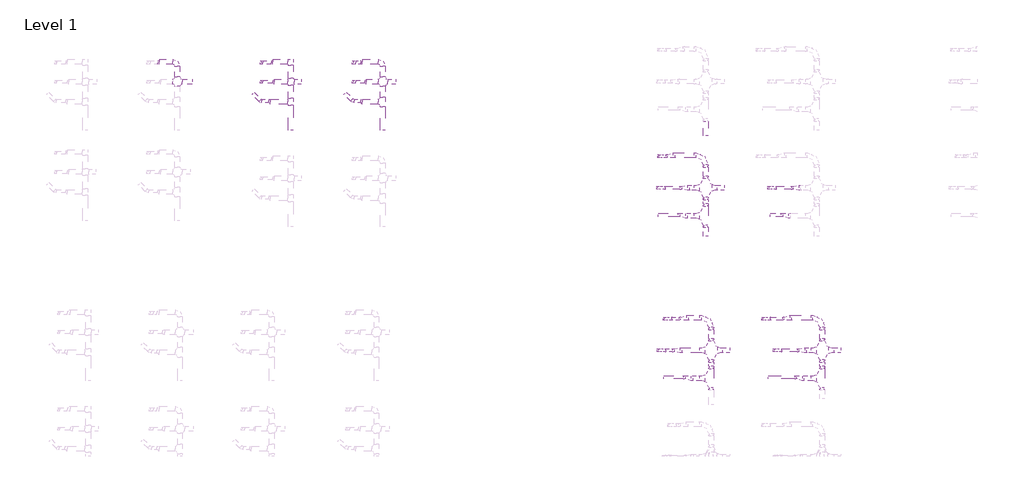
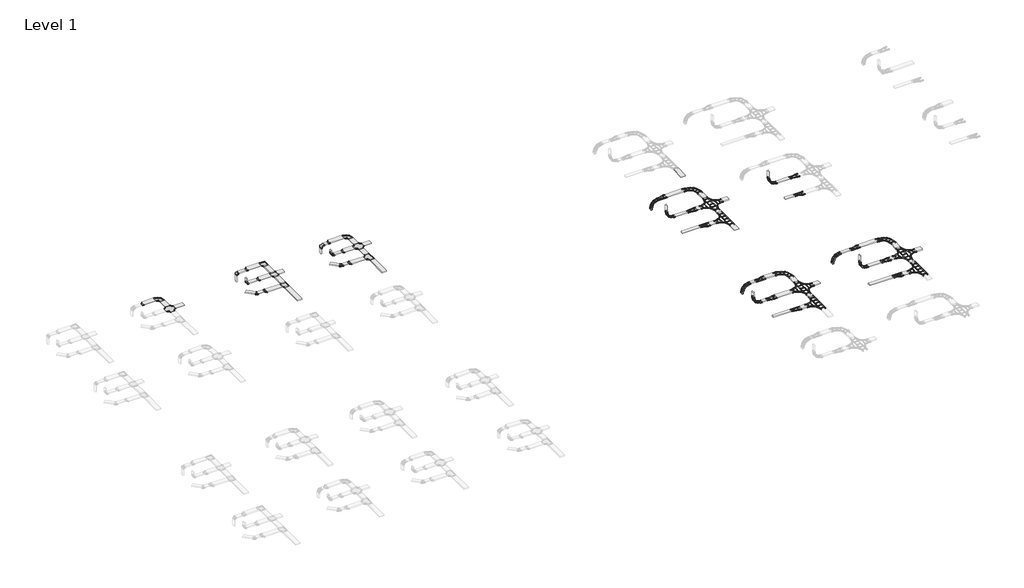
# One storey, part 4 of 9: 66 cable carrier segments, 48 cable carrier fittings.
"""IFC4 building model written with IfcOpenShell, lengths in millimetres."""

from ifc_helpers import new_model, si_unit, frame, origin, place, context, project, spatial, polyline, outline, extrude, transform, mapped, element, save
from components import cable_carrier_fitting_1_mm_2e661681, cable_carrier_fitting_1_mm_805de479, cable_carrier_fitting_1_mm_529289f4, cable_carrier_fitting_1_mm_c1197fce, cable_carrier_fitting_1_mm_2da36d92, cable_carrier_fitting_1_mm_367de262, cable_carrier_fitting_1_mm_a7febe8f, cable_carrier_fitting_1_mm_fc54f34e, cable_carrier_fitting_1_mm_42b71fda, cable_carrier_fitting_1_mm_6bbfc198, cable_carrier_fitting_1_mm_6862339d, cable_carrier_fitting_1_mm_9a7406c8, cable_carrier_fitting_1_mm_d3f2b815, cable_carrier_fitting_1_mm_5924018d, cable_carrier_fitting_1_mm_cfe8fd75, cable_carrier_fitting_1_mm_02684e42, cable_carrier_fitting_1_5_mm_cc8ef015, cable_carrier_fitting_1_5_mm_7721eeaa, cable_carrier_fitting_1_5_mm_3523910d, cable_carrier_fitting_1_5_mm_74426db5, cable_carrier_fitting_1_5_mm_ccf48cd3, cable_carrier_fitting_1_5_mm_c053843e, cable_carrier_fitting_1_5_mm_2af02ecb, cable_carrier_fitting_1_5_mm_0168b917, cable_carrier_fitting_1_5_mm_8b0a73e9, cable_carrier_fitting_1_5_mm_19f47176, cable_carrier_fitting_1_5_mm_3fb46f2a, cable_carrier_fitting_1_5_mm_6c32c4d6, cable_carrier_fitting_1_5_mm_98a35593, cable_carrier_fitting_1_5_mm_6b6fba04, cable_carrier_fitting_1_5_mm_c50eb6b4, cable_carrier_fitting_1_5_mm_1f838bc7, cable_carrier_fitting_1_5_mm_861352f9, cable_carrier_fitting_1_5_mm_f55de235

model = new_model("IFC4")

# Units and contexts
model_context = context("Model", 3, world=origin())
ifc_project = project(units=[si_unit("LENGTHUNIT", "METRE", prefix="MILLI")], contexts=[model_context])

# Site, building, storey
site = spatial("IfcSite", under=ifc_project)
building = spatial("IfcBuilding", under=site)
storey = spatial("IfcBuildingStorey", under=building, Name="Level 1", Elevation=0.0)

# Cable carrier fittings
placement = place(None, origin())
cable_carrier_fitting_1_mm_shape = cable_carrier_fitting_1_mm_2e661681(model_context)
element("IfcCableCarrierFitting", 1, ObjectType="BAKS_Redukcja : 1 mm", at=placement, inside=storey, context=model_context, shape_type="MappedRepresentation", body=[
    mapped(cable_carrier_fitting_1_mm_shape, transform((-14712.8504125, 19790.4928401, 2750.0), x_axis=(-1.0, 0.0, 0.0), y_axis=(0.0, -1.0, 0.0), z_axis=(0.0, 0.0, 1.0))),
])
cable_carrier_fitting_1_mm_2_shape = cable_carrier_fitting_1_mm_805de479(model_context)
element("IfcCableCarrierFitting", 2, ObjectType="BAKS_Redukcja : 1 mm", at=placement, inside=storey, context=model_context, shape_type="MappedRepresentation", body=[
    mapped(cable_carrier_fitting_1_mm_2_shape, transform((-7772.5541593, 18572.5015825, 2750.0), x_axis=(1.0, 0.0, 0.0), y_axis=(0.0, 1.0, 0.0), z_axis=(0.0, 0.0, 1.0))),
])
element("IfcCableCarrierFitting", 3, ObjectType="BAKS_Redukcja : 1 mm", at=placement, inside=storey, context=model_context, shape_type="MappedRepresentation", body=[
    mapped(cable_carrier_fitting_1_mm_2_shape, transform((-2152.5541593, 18572.5015825, 2750.0), x_axis=(1.0, 0.0, 0.0), y_axis=(0.0, 1.0, 0.0), z_axis=(0.0, 0.0, 1.0))),
])
cable_carrier_fitting_1_mm_3_shape = cable_carrier_fitting_1_mm_529289f4(model_context)
element("IfcCableCarrierFitting", 4, ObjectType="BAKS_Redukcja : 1 mm", at=placement, inside=storey, context=model_context, shape_type="MappedRepresentation", body=[
    mapped(cable_carrier_fitting_1_mm_3_shape, transform((-7772.5541593, 19790.4928401, 2750.0), x_axis=(-1.0, 0.0, 0.0), y_axis=(0.0, -1.0, 0.0), z_axis=(0.0, 0.0, 1.0))),
])
element("IfcCableCarrierFitting", 5, ObjectType="BAKS_Redukcja : 1 mm", at=placement, inside=storey, context=model_context, shape_type="MappedRepresentation", body=[
    mapped(cable_carrier_fitting_1_mm_3_shape, transform((-2312.5541593, 19790.4928401, 2750.0), x_axis=(-1.0, 0.0, 0.0), y_axis=(0.0, -1.0, 0.0), z_axis=(0.0, 0.0, 1.0))),
])
cable_carrier_fitting_1_mm_4_shape = cable_carrier_fitting_1_mm_c1197fce(model_context)
element("IfcCableCarrierFitting", 6, ObjectType="BAKS_Redukcja : 1 mm", at=placement, inside=storey, context=model_context, shape_type="MappedRepresentation", body=[
    mapped(cable_carrier_fitting_1_mm_4_shape, transform((-7932.5541593, 17341.8691699, 2750.0), x_axis=(-1.0, 0.0, 0.0), y_axis=(0.0, -1.0, 0.0), z_axis=(0.0, 0.0, 1.0))),
])
element("IfcCableCarrierFitting", 7, ObjectType="BAKS_Redukcja : 1 mm", at=placement, inside=storey, context=model_context, shape_type="MappedRepresentation", body=[
    mapped(cable_carrier_fitting_1_mm_4_shape, transform((-2312.5541593, 17341.8691699, 2750.0), x_axis=(-1.0, 0.0, 0.0), y_axis=(0.0, -1.0, 0.0), z_axis=(0.0, 0.0, 1.0))),
])
cable_carrier_fitting_1_mm_5_shape = cable_carrier_fitting_1_mm_2da36d92(model_context)
element("IfcCableCarrierFitting", 8, ObjectType="BAKS_Czwórnik_koryta (R140) : 1 mm", at=placement, inside=storey, context=model_context, shape_type="MappedRepresentation", body=[
    mapped(cable_carrier_fitting_1_mm_5_shape, transform((-13612.8504125, 18572.5015825, 2750.0), x_axis=(0.0, 1.0, 0.0), y_axis=(-1.0, 0.0, 0.0), z_axis=(0.0, 0.0, 1.0))),
])
cable_carrier_fitting_1_mm_6_shape = cable_carrier_fitting_1_mm_367de262(model_context)
element("IfcCableCarrierFitting", 9, ObjectType="BAKS_Czwórnik_koryta (R140) : 1 mm", at=placement, inside=storey, context=model_context, shape_type="MappedRepresentation", body=[
    mapped(cable_carrier_fitting_1_mm_6_shape, transform((-1052.5541593, 18572.5015825, 2750.0), x_axis=(0.0, 1.0, 0.0), y_axis=(-1.0, 0.0, 0.0), z_axis=(0.0, 0.0, 1.0))),
])
cable_carrier_fitting_1_mm_7_shape = cable_carrier_fitting_1_mm_a7febe8f(model_context)
element("IfcCableCarrierFitting", 10, ObjectType="BAKS_Trójnik_koryta (R140) : 1 mm", at=placement, inside=storey, context=model_context, shape_type="MappedRepresentation", body=[
    mapped(cable_carrier_fitting_1_mm_7_shape, transform((-1052.5541593, 17341.8691699, 2750.0), x_axis=(0.0, -1.0, 0.0), y_axis=(1.0, 0.0, 0.0), z_axis=(0.0, 0.0, 1.0))),
])
cable_carrier_fitting_1_mm_8_shape = cable_carrier_fitting_1_mm_fc54f34e(model_context)
element("IfcCableCarrierFitting", 11, ObjectType="BAKS_Kolano_koryta : 1 mm", at=placement, inside=storey, context=model_context, shape_type="MappedRepresentation", body=[
    mapped(cable_carrier_fitting_1_mm_8_shape, transform((-8512.5541593, 17391.8691699, 2750.0), x_axis=(0.7071067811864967, -0.7071067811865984, 0.0), y_axis=(0.7071067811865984, 0.7071067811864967, 0.0), z_axis=(0.0, 0.0, 1.0))),
])
cable_carrier_fitting_1_mm_9_shape = cable_carrier_fitting_1_mm_42b71fda(model_context)
element("IfcCableCarrierFitting", 12, ObjectType="BAKS_Kolano_koryta : 1 mm", at=placement, inside=storey, context=model_context, shape_type="MappedRepresentation", body=[
    mapped(cable_carrier_fitting_1_mm_9_shape, transform((-6672.5541593, 19790.4928401, 2750.0), x_axis=(0.0, 1.0, 0.0), y_axis=(-1.0, 0.0, 0.0), z_axis=(0.0, 0.0, 1.0))),
])
cable_carrier_fitting_1_mm_10_shape = cable_carrier_fitting_1_mm_6bbfc198(model_context)
element("IfcCableCarrierFitting", 13, ObjectType="BAKS_Kolano_koryta (R140) : 1 mm", at=placement, inside=storey, context=model_context, shape_type="MappedRepresentation", body=[
    mapped(cable_carrier_fitting_1_mm_10_shape, transform((-13612.8504125, 19790.4928401, 2750.0), x_axis=(0.0, 1.0, 0.0), y_axis=(-1.0, 0.0, 0.0), z_axis=(0.0, 0.0, 1.0))),
])
cable_carrier_fitting_1_mm_11_shape = cable_carrier_fitting_1_mm_6862339d(model_context)
element("IfcCableCarrierFitting", 14, ObjectType="BAKS_Kolano_koryta (R140) : 1 mm", at=placement, inside=storey, context=model_context, shape_type="MappedRepresentation", body=[
    mapped(cable_carrier_fitting_1_mm_11_shape, transform((-2892.5541593, 17391.8691699, 2750.0), x_axis=(0.7071067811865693, -0.7071067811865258, 0.0), y_axis=(0.7071067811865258, 0.7071067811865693, 0.0), z_axis=(0.0, 0.0, 1.0))),
])
cable_carrier_fitting_1_mm_12_shape = cable_carrier_fitting_1_mm_9a7406c8(model_context)
element("IfcCableCarrierFitting", 15, ObjectType="BAKS_Kolano_koryta (R140) : 1 mm", at=placement, inside=storey, context=model_context, shape_type="MappedRepresentation", body=[
    mapped(cable_carrier_fitting_1_mm_12_shape, transform((-1052.5541593, 19790.4928401, 2750.0), x_axis=(0.0, 1.0, 0.0), y_axis=(-1.0, 0.0, 0.0), z_axis=(0.0, 0.0, 1.0))),
])
cable_carrier_fitting_1_mm_13_shape = cable_carrier_fitting_1_mm_d3f2b815(model_context)
element("IfcCableCarrierFitting", 16, ObjectType="BAKS_Czwórnik_koryta : 1 mm", at=placement, inside=storey, context=model_context, shape_type="MappedRepresentation", body=[
    mapped(cable_carrier_fitting_1_mm_13_shape, transform((-6672.5541593, 18572.5015825, 2750.0), x_axis=(0.0, 1.0, 0.0), y_axis=(-1.0, 0.0, 0.0), z_axis=(0.0, 0.0, 1.0))),
])
cable_carrier_fitting_1_mm_14_shape = cable_carrier_fitting_1_mm_5924018d(model_context)
element("IfcCableCarrierFitting", 17, ObjectType="BAKS_Trójnik_koryta : 1 mm", at=placement, inside=storey, context=model_context, shape_type="MappedRepresentation", body=[
    mapped(cable_carrier_fitting_1_mm_14_shape, transform((-6672.5541593, 17341.8691699, 2750.0), x_axis=(0.0, -1.0, 0.0), y_axis=(1.0, 0.0, 0.0), z_axis=(0.0, 0.0, 1.0))),
])
cable_carrier_fitting_1_mm_15_shape = cable_carrier_fitting_1_mm_cfe8fd75(model_context)
element("IfcCableCarrierFitting", 18, ObjectType="BAKS_Łuk_koryta_pionowy (R50)z : 1 mm", at=placement, inside=storey, context=model_context, shape_type="MappedRepresentation", body=[
    mapped(cable_carrier_fitting_1_mm_15_shape, transform((-8512.5541593, 19740.4928401, 2750.0), x_axis=(0.0, 0.0, 1.0), y_axis=(1.0, 0.0, 0.0), z_axis=(0.0, 1.0, 0.0))),
])
element("IfcCableCarrierFitting", 19, ObjectType="BAKS_Łuk_koryta_pionowy (R50)w : 1 mm", at=placement, inside=storey, context=model_context, shape_type="MappedRepresentation", body=[
    mapped(cable_carrier_fitting_1_mm_15_shape, transform((-8512.5541593, 18572.5015825, 2750.0), x_axis=(0.0, 0.0, -1.0), y_axis=(1.0, 0.0, 0.0), z_axis=(0.0, -1.0, 0.0))),
])
cable_carrier_fitting_1_mm_16_shape = cable_carrier_fitting_1_mm_02684e42(model_context)
element("IfcCableCarrierFitting", 20, ObjectType="BAKS_Łuk_koryta_pionowy (R140)z : 1 mm", at=placement, inside=storey, context=model_context, shape_type="MappedRepresentation", body=[
    mapped(cable_carrier_fitting_1_mm_16_shape, transform((-2892.5541593, 19740.4928401, 2750.0), x_axis=(0.0, 0.0, 1.0), y_axis=(1.0, 0.0, 0.0), z_axis=(0.0, 1.0, 0.0))),
])
element("IfcCableCarrierFitting", 21, ObjectType="BAKS_Łuk_koryta_pionowy (R140)w : 1 mm", at=placement, inside=storey, context=model_context, shape_type="MappedRepresentation", body=[
    mapped(cable_carrier_fitting_1_mm_16_shape, transform((-2892.5541593, 18572.5015825, 2750.0), x_axis=(0.0, 0.0, -1.0), y_axis=(1.0, 0.0, 0.0), z_axis=(0.0, -1.0, 0.0))),
])
cable_carrier_fitting_1_5_mm_shape = cable_carrier_fitting_1_5_mm_cc8ef015(model_context)
element("IfcCableCarrierFitting", 22, ObjectType="BAKS_Łuk_pionowy_drabiny_zew E90 : 1.5 mm", at=placement, inside=storey, context=model_context, shape_type="MappedRepresentation", body=[
    mapped(cable_carrier_fitting_1_5_mm_shape, transform((22136.055047, 4086.5465, 2750.0), x_axis=(0.0, 0.0, 1.0), y_axis=(1.0, 0.0, 0.0), z_axis=(0.0, 1.0, 0.0))),
])
element("IfcCableCarrierFitting", 23, ObjectType="BAKS_Łuk_pionowy_drabiny_zew E90 : 1.5 mm", at=placement, inside=storey, context=model_context, shape_type="MappedRepresentation", body=[
    mapped(cable_carrier_fitting_1_5_mm_shape, transform((16113.9258241, 4086.5465, 2750.0), x_axis=(0.0, 0.0, 1.0), y_axis=(1.0, 0.0, 0.0), z_axis=(0.0, 1.0, 0.0))),
])
cable_carrier_fitting_1_5_mm_2_shape = cable_carrier_fitting_1_5_mm_7721eeaa(model_context)
element("IfcCableCarrierFitting", 24, ObjectType="BAKS_Łuk_pionowy_drabiny_wew E90 : 1.5 mm", at=placement, inside=storey, context=model_context, shape_type="MappedRepresentation", body=[
    mapped(cable_carrier_fitting_1_5_mm_2_shape, transform((15741.055047, 2149.7680497, 2750.0), x_axis=(0.0, 0.0, -1.0), y_axis=(1.0, 0.0, 0.0), z_axis=(0.0, -1.0, 0.0))),
])
element("IfcCableCarrierFitting", 25, ObjectType="BAKS_Łuk_pionowy_drabiny_wew E90 : 1.5 mm", at=placement, inside=storey, context=model_context, shape_type="MappedRepresentation", body=[
    mapped(cable_carrier_fitting_1_5_mm_2_shape, transform((22841.055047, 2149.7680497, 2750.0), x_axis=(0.0, 0.0, -1.0), y_axis=(1.0, 0.0, 0.0), z_axis=(0.0, -1.0, 0.0))),
])
cable_carrier_fitting_1_5_mm_3_shape = cable_carrier_fitting_1_5_mm_3523910d(model_context)
element("IfcCableCarrierFitting", 26, ObjectType="BAKS_Łuk_drabiny E90 : 1.5 mm", at=placement, inside=storey, context=model_context, shape_type="MappedRepresentation", body=[
    mapped(cable_carrier_fitting_1_5_mm_3_shape, transform((25812.7309526, 4136.5465, 2750.0), x_axis=(0.0, 1.0, 0.0), y_axis=(-1.0, 0.0, 0.0), z_axis=(0.0, 0.0, 1.0))),
])
element("IfcCableCarrierFitting", 27, ObjectType="BAKS_Łuk_drabiny E90 : 1.5 mm", at=placement, inside=storey, context=model_context, shape_type="MappedRepresentation", body=[
    mapped(cable_carrier_fitting_1_5_mm_3_shape, transform((19012.7309526, 4136.5465, 2750.0), x_axis=(0.0, 1.0, 0.0), y_axis=(-1.0, 0.0, 0.0), z_axis=(0.0, 0.0, 1.0))),
])
cable_carrier_fitting_1_5_mm_4_shape = cable_carrier_fitting_1_5_mm_74426db5(model_context)
element("IfcCableCarrierFitting", 28, ObjectType="BAKS_Redukcja_drabiny E90 : 1.5 mm", at=placement, inside=storey, context=model_context, shape_type="MappedRepresentation", body=[
    mapped(cable_carrier_fitting_1_5_mm_4_shape, transform((17241.055047, 2149.7680497, 2750.0), x_axis=(-1.0, 0.0, 0.0), y_axis=(0.0, -1.0, 0.0), z_axis=(0.0, 0.0, 1.0))),
])
cable_carrier_fitting_1_5_mm_5_shape = cable_carrier_fitting_1_5_mm_ccf48cd3(model_context)
element("IfcCableCarrierFitting", 29, ObjectType="BAKS_Redukcja_drabiny E90 : 1.5 mm", at=placement, inside=storey, context=model_context, shape_type="MappedRepresentation", body=[
    mapped(cable_carrier_fitting_1_5_mm_5_shape, transform((17912.7309526, 447.9228297, 2750.0), x_axis=(-1.0, 0.0, 0.0), y_axis=(0.0, -1.0, 0.0), z_axis=(0.0, 0.0, 1.0))),
])
element("IfcCableCarrierFitting", 30, ObjectType="BAKS_Redukcja_drabiny E90 : 1.5 mm", at=placement, inside=storey, context=model_context, shape_type="MappedRepresentation", body=[
    mapped(cable_carrier_fitting_1_5_mm_5_shape, transform((24712.7309526, 447.9228297, 2750.0), x_axis=(-1.0, 0.0, 0.0), y_axis=(0.0, -1.0, 0.0), z_axis=(0.0, 0.0, 1.0))),
])
cable_carrier_fitting_1_5_mm_6_shape = cable_carrier_fitting_1_5_mm_c053843e(model_context)
element("IfcCableCarrierFitting", 31, ObjectType="BAKS_Redukcja_drabiny E90 : 1.5 mm", at=placement, inside=storey, context=model_context, shape_type="MappedRepresentation", body=[
    mapped(cable_carrier_fitting_1_5_mm_6_shape, transform((24261.055047, 2149.7680497, 2750.0), x_axis=(1.0, 0.0, 0.0), y_axis=(0.0, 1.0, 0.0), z_axis=(0.0, 0.0, 1.0))),
])
cable_carrier_fitting_1_5_mm_7_shape = cable_carrier_fitting_1_5_mm_2af02ecb(model_context)
element("IfcCableCarrierFitting", 32, ObjectType="BAKS_Redukcja_drabiny E90 : 1.5 mm", at=placement, inside=storey, context=model_context, shape_type="MappedRepresentation", body=[
    mapped(cable_carrier_fitting_1_5_mm_7_shape, transform((23946.1450634, 4136.5465, 2750.0), x_axis=(-1.0, 0.0, 0.0), y_axis=(0.0, -1.0, 0.0), z_axis=(0.0, 0.0, 1.0))),
])
cable_carrier_fitting_1_5_mm_8_shape = cable_carrier_fitting_1_5_mm_0168b917(model_context)
element("IfcCableCarrierFitting", 33, ObjectType="BAKS_Redukcja_drabiny E90 : 1.5 mm", at=placement, inside=storey, context=model_context, shape_type="MappedRepresentation", body=[
    mapped(cable_carrier_fitting_1_5_mm_8_shape, transform((17032.7309526, 4086.5465, 2750.0), x_axis=(1.0, 0.0, 0.0), y_axis=(0.0, 1.0, 0.0), z_axis=(0.0, 0.0, 1.0))),
])
cable_carrier_fitting_1_5_mm_9_shape = cable_carrier_fitting_1_5_mm_8b0a73e9(model_context)
element("IfcCableCarrierFitting", 34, ObjectType="BAKS_Trójnik_drabiny E90 : 1.5 mm", at=placement, inside=storey, context=model_context, shape_type="MappedRepresentation", body=[
    mapped(cable_carrier_fitting_1_5_mm_9_shape, transform((19012.7309526, 447.9228297, 2750.0), x_axis=(0.0, -1.0, 0.0), y_axis=(1.0, 0.0, 0.0), z_axis=(0.0, 0.0, 1.0))),
])
element("IfcCableCarrierFitting", 35, ObjectType="BAKS_Trójnik_drabiny E90 : 1.5 mm", at=placement, inside=storey, context=model_context, shape_type="MappedRepresentation", body=[
    mapped(cable_carrier_fitting_1_5_mm_9_shape, transform((25812.7309526, 447.9228297, 2750.0), x_axis=(0.0, -1.0, 0.0), y_axis=(1.0, 0.0, 0.0), z_axis=(0.0, 0.0, 1.0))),
])
cable_carrier_fitting_1_5_mm_10_shape = cable_carrier_fitting_1_5_mm_19f47176(model_context)
element("IfcCableCarrierFitting", 36, ObjectType="BAKS_Czwórnik_drabiny E90 : 1.5 mm", at=placement, inside=storey, context=model_context, shape_type="MappedRepresentation", body=[
    mapped(cable_carrier_fitting_1_5_mm_10_shape, transform((19012.7309526, 2149.7680497, 2750.0), x_axis=(0.0, 1.0, 0.0), y_axis=(-1.0, 0.0, 0.0), z_axis=(0.0, 0.0, 1.0))),
])
element("IfcCableCarrierFitting", 37, ObjectType="BAKS_Czwórnik_drabiny E90 : 1.5 mm", at=placement, inside=storey, context=model_context, shape_type="MappedRepresentation", body=[
    mapped(cable_carrier_fitting_1_5_mm_10_shape, transform((25812.7309526, 2149.7680497, 2750.0), x_axis=(0.0, 1.0, 0.0), y_axis=(-1.0, 0.0, 0.0), z_axis=(0.0, 0.0, 1.0))),
])
cable_carrier_fitting_1_5_mm_11_shape = cable_carrier_fitting_1_5_mm_3fb46f2a(model_context)
element("IfcCableCarrierFitting", 38, ObjectType="BAKS_Łuk_drabiny : 1.5 mm", at=placement, inside=storey, context=model_context, shape_type="MappedRepresentation", body=[
    mapped(cable_carrier_fitting_1_5_mm_11_shape, transform((18675.8987392, 14068.4533524, 2750.0), x_axis=(0.0, 1.0, 0.0), y_axis=(-1.0, 0.0, 0.0), z_axis=(0.0, 0.0, 1.0))),
])
cable_carrier_fitting_1_5_mm_12_shape = cable_carrier_fitting_1_5_mm_6c32c4d6(model_context)
element("IfcCableCarrierFitting", 39, ObjectType="BAKS_Trójnik_drabiny : 1.5 mm", at=placement, inside=storey, context=model_context, shape_type="MappedRepresentation", body=[
    mapped(cable_carrier_fitting_1_5_mm_12_shape, transform((18675.8987392, 10379.8296821, 2750.0), x_axis=(0.0, -1.0, 0.0), y_axis=(1.0, 0.0, 0.0), z_axis=(0.0, 0.0, 1.0))),
])
cable_carrier_fitting_1_5_mm_13_shape = cable_carrier_fitting_1_5_mm_98a35593(model_context)
element("IfcCableCarrierFitting", 40, ObjectType="BAKS_Czwórnik_drabiny : 1.5 mm", at=placement, inside=storey, context=model_context, shape_type="MappedRepresentation", body=[
    mapped(cable_carrier_fitting_1_5_mm_13_shape, transform((18675.8987392, 12081.6749022, 2750.0), x_axis=(0.0, 1.0, 0.0), y_axis=(-1.0, 0.0, 0.0), z_axis=(0.0, 0.0, 1.0))),
])
cable_carrier_fitting_1_5_mm_14_shape = cable_carrier_fitting_1_5_mm_6b6fba04(model_context)
element("IfcCableCarrierFitting", 41, ObjectType="BAKS_Redukcja_drabiny : 1.5 mm", at=placement, inside=storey, context=model_context, shape_type="MappedRepresentation", body=[
    mapped(cable_carrier_fitting_1_5_mm_14_shape, transform((17104.2228336, 12081.6749022, 2750.0), x_axis=(1.0, 0.0, 0.0), y_axis=(0.0, 1.0, 0.0), z_axis=(0.0, 0.0, 1.0))),
])
element("IfcCableCarrierFitting", 42, ObjectType="BAKS_Redukcja_drabiny : 1.5 mm", at=placement, inside=storey, context=model_context, shape_type="MappedRepresentation", body=[
    mapped(cable_carrier_fitting_1_5_mm_14_shape, transform((23904.2228336, 12081.6749022, 2750.0), x_axis=(1.0, 0.0, 0.0), y_axis=(0.0, 1.0, 0.0), z_axis=(0.0, 0.0, 1.0))),
])
cable_carrier_fitting_1_5_mm_15_shape = cable_carrier_fitting_1_5_mm_c50eb6b4(model_context)
element("IfcCableCarrierFitting", 43, ObjectType="BAKS_Redukcja_drabiny : 1.5 mm", at=placement, inside=storey, context=model_context, shape_type="MappedRepresentation", body=[
    mapped(cable_carrier_fitting_1_5_mm_15_shape, transform((16809.31285, 14068.4533524, 2750.0), x_axis=(-1.0, 0.0, 0.0), y_axis=(0.0, -1.0, 0.0), z_axis=(0.0, 0.0, 1.0))),
])
cable_carrier_fitting_1_5_mm_16_shape = cable_carrier_fitting_1_5_mm_1f838bc7(model_context)
element("IfcCableCarrierFitting", 44, ObjectType="BAKS_Redukcja_drabiny : 1.5 mm", at=placement, inside=storey, context=model_context, shape_type="MappedRepresentation", body=[
    mapped(cable_carrier_fitting_1_5_mm_16_shape, transform((17575.8987392, 10379.8296821, 2750.0), x_axis=(-1.0, 0.0, 0.0), y_axis=(0.0, -1.0, 0.0), z_axis=(0.0, 0.0, 1.0))),
])
element("IfcCableCarrierFitting", 45, ObjectType="BAKS_Redukcja_drabiny : 1.5 mm", at=placement, inside=storey, context=model_context, shape_type="MappedRepresentation", body=[
    mapped(cable_carrier_fitting_1_5_mm_16_shape, transform((23875.8987392, 10379.8296821, 2750.0), x_axis=(-1.0, 0.0, 0.0), y_axis=(0.0, -1.0, 0.0), z_axis=(0.0, 0.0, 1.0))),
])
cable_carrier_fitting_1_5_mm_17_shape = cable_carrier_fitting_1_5_mm_861352f9(model_context)
element("IfcCableCarrierFitting", 46, ObjectType="BAKS_Łuk_pionowy_drabiny_zew : 1.5 mm", at=placement, inside=storey, context=model_context, shape_type="MappedRepresentation", body=[
    mapped(cable_carrier_fitting_1_5_mm_17_shape, transform((15777.0936106, 14018.4533524, 2750.0), x_axis=(0.0, 0.0, 1.0), y_axis=(1.0, 0.0, 0.0), z_axis=(0.0, 1.0, 0.0))),
])
cable_carrier_fitting_1_5_mm_18_shape = cable_carrier_fitting_1_5_mm_f55de235(model_context)
element("IfcCableCarrierFitting", 47, ObjectType="BAKS_Łuk_pionowy_drabiny_wew : 1.5 mm", at=placement, inside=storey, context=model_context, shape_type="MappedRepresentation", body=[
    mapped(cable_carrier_fitting_1_5_mm_18_shape, transform((15704.2228336, 12081.6749022, 2750.0), x_axis=(0.0, 0.0, -1.0), y_axis=(1.0, 0.0, 0.0), z_axis=(0.0, -1.0, 0.0))),
])
element("IfcCableCarrierFitting", 48, ObjectType="BAKS_Łuk_pionowy_drabiny_wew : 1.5 mm", at=placement, inside=storey, context=model_context, shape_type="MappedRepresentation", body=[
    mapped(cable_carrier_fitting_1_5_mm_18_shape, transform((22504.2228336, 12081.6749022, 2750.0), x_axis=(0.0, 0.0, -1.0), y_axis=(1.0, 0.0, 0.0), z_axis=(0.0, -1.0, 0.0))),
])

# Cable carrier segments
element("IfcCableCarrierSegment", 49, ObjectType="BAKS - koryto kablowe H50 (KCL) - promieniowe", at=placement, inside=storey, context=model_context, shape_type="SweptSolid", body=[
    extrude(outline(polyline([(-12717.8504125, 18722.5015825), (-12717.8504125, 18422.5015825), (-13321.8504125, 18422.5015825), (-13321.8504125, 18722.5015825), (-12717.8504125, 18722.5015825)])), frame((0.0, 0.0, 2725.0), z_axis=(0.0, 0.0, 1.0), x_axis=(1.0, 0.0, 0.0)), (0.0, 0.0, 1.0), 50.0),
])
element("IfcCableCarrierSegment", 50, ObjectType="BAKS - koryto kablowe H50 (KCL) - promieniowe", at=placement, inside=storey, context=model_context, shape_type="SweptSolid", body=[
    extrude(outline(polyline([(-13462.8504125, 18863.5015825), (-13762.8504125, 18863.5015825), (-13762.8504125, 19499.4928401), (-13462.8504125, 19499.4928401), (-13462.8504125, 18863.5015825)])), frame((0.0, 0.0, 2725.0), z_axis=(0.0, 0.0, 1.0), x_axis=(1.0, 0.0, 0.0)), (0.0, 0.0, 1.0), 50.0),
])
element("IfcCableCarrierSegment", 51, ObjectType="BAKS - koryto kablowe H50 (KCL) - promieniowe", at=placement, inside=storey, context=model_context, shape_type="SweptSolid", body=[
    extrude(outline(polyline([(-13903.8504125, 19940.4928401), (-13903.8504125, 19640.4928401), (-14712.8504125, 19640.4928401), (-14712.8504125, 19940.4928401), (-13903.8504125, 19940.4928401)])), frame((0.0, 0.0, 2725.0), z_axis=(0.0, 0.0, 1.0), x_axis=(1.0, 0.0, 0.0)), (0.0, 0.0, 1.0), 50.0),
])
element("IfcCableCarrierSegment", 52, ObjectType="BAKS - koryto kablowe H60 (KGL) - ostre", at=placement, inside=storey, context=model_context, shape_type="SweptSolid", body=[
    extrude(outline(polyline([(-6522.5541593, 17546.8691699), (-6822.5541593, 17546.8691699), (-6822.5541593, 18367.5015825), (-6522.5541593, 18367.5015825), (-6522.5541593, 17546.8691699)])), frame((0.0, 0.0, 2720.0), z_axis=(0.0, 0.0, 1.0), x_axis=(1.0, 0.0, 0.0)), (0.0, 0.0, 1.0), 60.0),
])
element("IfcCableCarrierSegment", 53, ObjectType="BAKS - koryto kablowe H60 (KGL) - ostre", at=placement, inside=storey, context=model_context, shape_type="SweptSolid", body=[
    extrude(outline(polyline([(-8482.5541593, 19640.4928401), (-8542.5541593, 19640.4928401), (-8542.5541593, 19840.4928401), (-8482.5541593, 19840.4928401), (-8482.5541593, 19640.4928401)])), frame((0.0, 0.0, 2200.0), z_axis=(0.0, 0.0, 1.0), x_axis=(1.0, 0.0, 0.0)), (0.0, 0.0, 1.0), 445.0),
])
element("IfcCableCarrierSegment", 54, ObjectType="BAKS - koryto kablowe H60 (KGL) - ostre", at=placement, inside=storey, context=model_context, shape_type="SweptSolid", body=[
    extrude(outline(polyline([(-7867.5541593, 19840.4928401), (-7867.5541593, 19640.4928401), (-8407.5541593, 19640.4928401), (-8407.5541593, 19840.4928401), (-7867.5541593, 19840.4928401)])), frame((0.0, 0.0, 2720.0), z_axis=(0.0, 0.0, 1.0), x_axis=(1.0, 0.0, 0.0)), (0.0, 0.0, 1.0), 60.0),
])
element("IfcCableCarrierSegment", 55, ObjectType="BAKS - koryto kablowe H60 (KGL) - ostre", at=placement, inside=storey, context=model_context, shape_type="SweptSolid", body=[
    extrude(outline(polyline([(-6522.5541593, 15590.4928401), (-6822.5541593, 15590.4928401), (-6822.5541593, 17136.8691699), (-6522.5541593, 17136.8691699), (-6522.5541593, 15590.4928401)])), frame((0.0, 0.0, 2720.0), z_axis=(0.0, 0.0, 1.0), x_axis=(1.0, 0.0, 0.0)), (0.0, 0.0, 1.0), 60.0),
])
element("IfcCableCarrierSegment", 56, ObjectType="BAKS - koryto kablowe H60 (KGL) - ostre", at=placement, inside=storey, context=model_context, shape_type="SweptSolid", body=[
    extrude(outline(polyline([(-8542.5541593, 18472.5015825), (-8542.5541593, 18672.5015825), (-8482.5541593, 18672.5015825), (-8482.5541593, 18472.5015825), (-8542.5541593, 18472.5015825)])), frame((0.0, 0.0, 2855.0), z_axis=(0.0, 0.0, 1.0), x_axis=(1.0, 0.0, 0.0)), (0.0, 0.0, 1.0), 245.0),
])
element("IfcCableCarrierSegment", 57, ObjectType="BAKS - koryto kablowe H60 (KGL) - ostre", at=placement, inside=storey, context=model_context, shape_type="SweptSolid", body=[
    extrude(outline(polyline([(-8407.5541593, 18472.5015825), (-8407.5541593, 18672.5015825), (-7772.5541593, 18672.5015825), (-7772.5541593, 18472.5015825), (-8407.5541593, 18472.5015825)])), frame((0.0, 0.0, 2720.0), z_axis=(0.0, 0.0, 1.0), x_axis=(1.0, 0.0, 0.0)), (0.0, 0.0, 1.0), 60.0),
])
element("IfcCableCarrierSegment", 58, ObjectType="BAKS - koryto kablowe H60 (KGL) - ostre", at=placement, inside=storey, context=model_context, shape_type="SweptSolid", body=[
    extrude(outline(polyline([(-9049.955313, 17787.8489674), (-8908.5339568, 17929.2703236), (-8487.9490369, 17508.6854037), (-8629.3703931, 17367.2640475), (-9049.955313, 17787.8489674)])), frame((0.0, 0.0, 2720.0), z_axis=(0.0, 0.0, 1.0), x_axis=(1.0, 0.0, 0.0)), (0.0, 0.0, 1.0), 60.0),
])
element("IfcCableCarrierSegment", 59, ObjectType="BAKS - koryto kablowe H60 (KGL) - ostre", at=placement, inside=storey, context=model_context, shape_type="SweptSolid", body=[
    extrude(outline(polyline([(-8027.5541593, 17491.8691699), (-8027.5541593, 17291.8691699), (-8447.3510572, 17291.8691699), (-8447.3510572, 17491.8691699), (-8027.5541593, 17491.8691699)])), frame((0.0, 0.0, 2720.0), z_axis=(0.0, 0.0, 1.0), x_axis=(1.0, 0.0, 0.0)), (0.0, 0.0, 1.0), 60.0),
])
element("IfcCableCarrierSegment", 60, ObjectType="BAKS - koryto kablowe H60 (KGL) - ostre", at=placement, inside=storey, context=model_context, shape_type="SweptSolid", body=[
    extrude(outline(polyline([(-6050.0541593, 18722.5015825), (-6050.0541593, 18422.5015825), (-6467.5541593, 18422.5015825), (-6467.5541593, 18722.5015825), (-6050.0541593, 18722.5015825)])), frame((0.0, 0.0, 2720.0), z_axis=(0.0, 0.0, 1.0), x_axis=(1.0, 0.0, 0.0)), (0.0, 0.0, 1.0), 60.0),
])
element("IfcCableCarrierSegment", 61, ObjectType="BAKS - koryto kablowe H60 (KGL) - ostre", at=placement, inside=storey, context=model_context, shape_type="SweptSolid", body=[
    extrude(outline(polyline([(-6877.5541593, 17491.8691699), (-6877.5541593, 17191.8691699), (-7932.5541593, 17191.8691699), (-7932.5541593, 17491.8691699), (-6877.5541593, 17491.8691699)])), frame((0.0, 0.0, 2720.0), z_axis=(0.0, 0.0, 1.0), x_axis=(1.0, 0.0, 0.0)), (0.0, 0.0, 1.0), 60.0),
])
element("IfcCableCarrierSegment", 62, ObjectType="BAKS - koryto kablowe H60 (KGL) - ostre", at=placement, inside=storey, context=model_context, shape_type="SweptSolid", body=[
    extrude(outline(polyline([(-7677.5541593, 18422.5015825), (-7677.5541593, 18722.5015825), (-6877.5541593, 18722.5015825), (-6877.5541593, 18422.5015825), (-7677.5541593, 18422.5015825)])), frame((0.0, 0.0, 2720.0), z_axis=(0.0, 0.0, 1.0), x_axis=(1.0, 0.0, 0.0)), (0.0, 0.0, 1.0), 60.0),
])
element("IfcCableCarrierSegment", 63, ObjectType="BAKS - koryto kablowe H60 (KGL) - ostre", at=placement, inside=storey, context=model_context, shape_type="SweptSolid", body=[
    extrude(outline(polyline([(-6522.5541593, 18777.5015825), (-6822.5541593, 18777.5015825), (-6822.5541593, 19584.4928401), (-6522.5541593, 19584.4928401), (-6522.5541593, 18777.5015825)])), frame((0.0, 0.0, 2720.0), z_axis=(0.0, 0.0, 1.0), x_axis=(1.0, 0.0, 0.0)), (0.0, 0.0, 1.0), 60.0),
])
element("IfcCableCarrierSegment", 64, ObjectType="BAKS - koryto kablowe H60 (KGL) - ostre", at=placement, inside=storey, context=model_context, shape_type="SweptSolid", body=[
    extrude(outline(polyline([(-6878.5541593, 19940.4928401), (-6878.5541593, 19640.4928401), (-7772.5541593, 19640.4928401), (-7772.5541593, 19940.4928401), (-6878.5541593, 19940.4928401)])), frame((0.0, 0.0, 2720.0), z_axis=(0.0, 0.0, 1.0), x_axis=(1.0, 0.0, 0.0)), (0.0, 0.0, 1.0), 60.0),
])
element("IfcCableCarrierSegment", 65, ObjectType="BAKS - koryto kablowe H60 (KGL) - promieniowe", at=placement, inside=storey, context=model_context, shape_type="SweptSolid", body=[
    extrude(outline(polyline([(-902.5541593, 17632.8691699), (-1202.5541593, 17632.8691699), (-1202.5541593, 18281.5015825), (-902.5541593, 18281.5015825), (-902.5541593, 17632.8691699)])), frame((0.0, 0.0, 2720.0), z_axis=(0.0, 0.0, 1.0), x_axis=(1.0, 0.0, 0.0)), (0.0, 0.0, 1.0), 60.0),
])
element("IfcCableCarrierSegment", 66, ObjectType="BAKS - koryto kablowe H60 (KGL) - promieniowe", at=placement, inside=storey, context=model_context, shape_type="SweptSolid", body=[
    extrude(outline(polyline([(-2862.5541593, 19640.4928401), (-2922.5541593, 19640.4928401), (-2922.5541593, 19840.4928401), (-2862.5541593, 19840.4928401), (-2862.5541593, 19640.4928401)])), frame((0.0, 0.0, 2200.0), z_axis=(0.0, 0.0, 1.0), x_axis=(1.0, 0.0, 0.0)), (0.0, 0.0, 1.0), 355.0),
])
element("IfcCableCarrierSegment", 67, ObjectType="BAKS - koryto kablowe H60 (KGL) - promieniowe", at=placement, inside=storey, context=model_context, shape_type="SweptSolid", body=[
    extrude(outline(polyline([(-2407.5541593, 19840.4928401), (-2407.5541593, 19640.4928401), (-2697.5541593, 19640.4928401), (-2697.5541593, 19840.4928401), (-2407.5541593, 19840.4928401)])), frame((0.0, 0.0, 2720.0), z_axis=(0.0, 0.0, 1.0), x_axis=(1.0, 0.0, 0.0)), (0.0, 0.0, 1.0), 60.0),
])
element("IfcCableCarrierSegment", 68, ObjectType="BAKS - koryto kablowe H60 (KGL) - promieniowe", at=placement, inside=storey, context=model_context, shape_type="SweptSolid", body=[
    extrude(outline(polyline([(-902.5541593, 15590.4928401), (-1202.5541593, 15590.4928401), (-1202.5541593, 17050.8691699), (-902.5541593, 17050.8691699), (-902.5541593, 15590.4928401)])), frame((0.0, 0.0, 2720.0), z_axis=(0.0, 0.0, 1.0), x_axis=(1.0, 0.0, 0.0)), (0.0, 0.0, 1.0), 60.0),
])
element("IfcCableCarrierSegment", 69, ObjectType="BAKS - koryto kablowe H60 (KGL) - promieniowe", at=placement, inside=storey, context=model_context, shape_type="SweptSolid", body=[
    extrude(outline(polyline([(-2922.5541593, 18472.5015825), (-2922.5541593, 18672.5015825), (-2862.5541593, 18672.5015825), (-2862.5541593, 18472.5015825), (-2922.5541593, 18472.5015825)])), frame((0.0, 0.0, 2945.0), z_axis=(0.0, 0.0, 1.0), x_axis=(1.0, 0.0, 0.0)), (0.0, 0.0, 1.0), 155.0),
])
element("IfcCableCarrierSegment", 70, ObjectType="BAKS - koryto kablowe H60 (KGL) - promieniowe", at=placement, inside=storey, context=model_context, shape_type="SweptSolid", body=[
    extrude(outline(polyline([(-2697.5541593, 18472.5015825), (-2697.5541593, 18672.5015825), (-2152.5541593, 18672.5015825), (-2152.5541593, 18472.5015825), (-2697.5541593, 18472.5015825)])), frame((0.0, 0.0, 2720.0), z_axis=(0.0, 0.0, 1.0), x_axis=(1.0, 0.0, 0.0)), (0.0, 0.0, 1.0), 60.0),
])
element("IfcCableCarrierSegment", 71, ObjectType="BAKS - koryto kablowe H60 (KGL) - promieniowe", at=placement, inside=storey, context=model_context, shape_type="SweptSolid", body=[
    extrude(outline(polyline([(-3429.955313, 17787.8489674), (-3288.5339568, 17929.2703236), (-2892.8449605, 17533.5813273), (-3034.2663167, 17392.1599711), (-3429.955313, 17787.8489674)])), frame((0.0, 0.0, 2720.0), z_axis=(0.0, 0.0, 1.0), x_axis=(1.0, 0.0, 0.0)), (0.0, 0.0, 1.0), 60.0),
])
element("IfcCableCarrierSegment", 72, ObjectType="BAKS - koryto kablowe H60 (KGL) - promieniowe", at=placement, inside=storey, context=model_context, shape_type="SweptSolid", body=[
    extrude(outline(polyline([(-2407.5541593, 17491.8691699), (-2407.5541593, 17291.8691699), (-2792.1429044, 17291.8691699), (-2792.1429044, 17491.8691699), (-2407.5541593, 17491.8691699)])), frame((0.0, 0.0, 2720.0), z_axis=(0.0, 0.0, 1.0), x_axis=(1.0, 0.0, 0.0)), (0.0, 0.0, 1.0), 60.0),
])
element("IfcCableCarrierSegment", 73, ObjectType="BAKS - koryto kablowe H60 (KGL) - promieniowe", at=placement, inside=storey, context=model_context, shape_type="SweptSolid", body=[
    extrude(outline(polyline([(-257.5541593, 18722.5015825), (-257.5541593, 18422.5015825), (-761.5541593, 18422.5015825), (-761.5541593, 18722.5015825), (-257.5541593, 18722.5015825)])), frame((0.0, 0.0, 2720.0), z_axis=(0.0, 0.0, 1.0), x_axis=(1.0, 0.0, 0.0)), (0.0, 0.0, 1.0), 60.0),
])
element("IfcCableCarrierSegment", 74, ObjectType="BAKS - koryto kablowe H60 (KGL) - promieniowe", at=placement, inside=storey, context=model_context, shape_type="SweptSolid", body=[
    extrude(outline(polyline([(-1343.5541593, 17491.8691699), (-1343.5541593, 17191.8691699), (-2312.5541593, 17191.8691699), (-2312.5541593, 17491.8691699), (-1343.5541593, 17491.8691699)])), frame((0.0, 0.0, 2720.0), z_axis=(0.0, 0.0, 1.0), x_axis=(1.0, 0.0, 0.0)), (0.0, 0.0, 1.0), 60.0),
])
element("IfcCableCarrierSegment", 75, ObjectType="BAKS - koryto kablowe H60 (KGL) - promieniowe", at=placement, inside=storey, context=model_context, shape_type="SweptSolid", body=[
    extrude(outline(polyline([(-2057.5541593, 18422.5015825), (-2057.5541593, 18722.5015825), (-1343.5541593, 18722.5015825), (-1343.5541593, 18422.5015825), (-2057.5541593, 18422.5015825)])), frame((0.0, 0.0, 2720.0), z_axis=(0.0, 0.0, 1.0), x_axis=(1.0, 0.0, 0.0)), (0.0, 0.0, 1.0), 60.0),
])
element("IfcCableCarrierSegment", 76, ObjectType="BAKS - koryto kablowe H60 (KGL) - promieniowe", at=placement, inside=storey, context=model_context, shape_type="SweptSolid", body=[
    extrude(outline(polyline([(-902.5541593, 18863.5015825), (-1202.5541593, 18863.5015825), (-1202.5541593, 19499.4928401), (-902.5541593, 19499.4928401), (-902.5541593, 18863.5015825)])), frame((0.0, 0.0, 2720.0), z_axis=(0.0, 0.0, 1.0), x_axis=(1.0, 0.0, 0.0)), (0.0, 0.0, 1.0), 60.0),
])
element("IfcCableCarrierSegment", 77, ObjectType="BAKS - koryto kablowe H60 (KGL) - promieniowe", at=placement, inside=storey, context=model_context, shape_type="SweptSolid", body=[
    extrude(outline(polyline([(-1343.5541593, 19940.4928401), (-1343.5541593, 19640.4928401), (-2312.5541593, 19640.4928401), (-2312.5541593, 19940.4928401), (-1343.5541593, 19940.4928401)])), frame((0.0, 0.0, 2720.0), z_axis=(0.0, 0.0, 1.0), x_axis=(1.0, 0.0, 0.0)), (0.0, 0.0, 1.0), 60.0),
])
element("IfcCableCarrierSegment", 78, ObjectType="BAKS - drabina kablowa H50 (DKD)", at=placement, inside=storey, context=model_context, shape_type="SweptSolid", body=[
    extrude(outline(polyline([(18525.8987392, 16159.8296821), (18825.8987392, 16159.8296821), (18825.8987392, 15259.8296821), (18525.8987392, 15259.8296821), (18525.8987392, 16159.8296821)])), frame((0.0, 0.0, 2725.0), z_axis=(0.0, 0.0, 1.0), x_axis=(1.0, 0.0, 0.0)), (0.0, 0.0, 1.0), 50.0),
])
element("IfcCableCarrierSegment", 79, ObjectType="BAKS - drabina kablowa H50 (DUD)", at=placement, inside=storey, context=model_context, shape_type="SweptSolid", body=[
    extrude(outline(polyline([(18825.8987392, 11099.8296821), (18525.8987392, 11099.8296821), (18525.8987392, 11361.6749022), (18825.8987392, 11361.6749022), (18825.8987392, 11099.8296821)])), frame((0.0, 0.0, 2725.0), z_axis=(0.0, 0.0, 1.0), x_axis=(1.0, 0.0, 0.0)), (0.0, 0.0, 1.0), 50.0),
])
element("IfcCableCarrierSegment", 80, ObjectType="BAKS - drabina kablowa H50 (DUD)", at=placement, inside=storey, context=model_context, shape_type="SweptSolid", body=[
    extrude(outline(polyline([(15802.0936106, 13918.4533524), (15752.0936106, 13918.4533524), (15752.0936106, 14118.4533524), (15802.0936106, 14118.4533524), (15802.0936106, 13918.4533524)])), frame((0.0, 0.0, 2200.0), z_axis=(0.0, 0.0, 1.0), x_axis=(1.0, 0.0, 0.0)), (0.0, 0.0, 1.0), 25.0),
])
element("IfcCableCarrierSegment", 81, ObjectType="BAKS - drabina kablowa H50 (DUD)", at=placement, inside=storey, context=model_context, shape_type="SweptSolid", body=[
    extrude(outline(polyline([(18825.8987392, 9108.4533524), (18525.8987392, 9108.4533524), (18525.8987392, 9659.8296821), (18825.8987392, 9659.8296821), (18825.8987392, 9108.4533524)])), frame((0.0, 0.0, 2725.0), z_axis=(0.0, 0.0, 1.0), x_axis=(1.0, 0.0, 0.0)), (0.0, 0.0, 1.0), 50.0),
])
element("IfcCableCarrierSegment", 82, ObjectType="BAKS - drabina kablowa H50 (DUD)", at=placement, inside=storey, context=model_context, shape_type="SweptSolid", body=[
    extrude(outline(polyline([(19804.2228336, 12231.6749022), (19804.2228336, 11931.6749022), (19395.8987392, 11931.6749022), (19395.8987392, 12231.6749022), (19804.2228336, 12231.6749022)])), frame((0.0, 0.0, 2725.0), z_axis=(0.0, 0.0, 1.0), x_axis=(1.0, 0.0, 0.0)), (0.0, 0.0, 1.0), 50.0),
])
element("IfcCableCarrierSegment", 83, ObjectType="BAKS - drabina kablowa H50 (DUD)", at=placement, inside=storey, context=model_context, shape_type="SweptSolid", body=[
    extrude(outline(polyline([(15679.2228336, 11981.6749022), (15679.2228336, 12181.6749022), (15729.2228336, 12181.6749022), (15729.2228336, 11981.6749022), (15679.2228336, 11981.6749022)])), frame((0.0, 0.0, 3275.0), z_axis=(0.0, 0.0, 1.0), x_axis=(1.0, 0.0, 0.0)), (0.0, 0.0, 1.0), 425.0),
])
element("IfcCableCarrierSegment", 84, ObjectType="BAKS - drabina kablowa H50 (DUD)", at=placement, inside=storey, context=model_context, shape_type="SweptSolid", body=[
    extrude(outline(polyline([(16229.2228336, 11981.6749022), (16229.2228336, 12181.6749022), (17104.2228336, 12181.6749022), (17104.2228336, 11981.6749022), (16229.2228336, 11981.6749022)])), frame((0.0, 0.0, 2725.0), z_axis=(0.0, 0.0, 1.0), x_axis=(1.0, 0.0, 0.0)), (0.0, 0.0, 1.0), 50.0),
])
element("IfcCableCarrierSegment", 85, ObjectType="BAKS - drabina kablowa H50 (DUD)", at=placement, inside=storey, context=model_context, shape_type="SweptSolid", body=[
    extrude(outline(polyline([(17575.8987392, 10229.8296821), (17575.8987392, 10529.8296821), (17955.8987392, 10529.8296821), (17955.8987392, 10229.8296821), (17575.8987392, 10229.8296821)])), frame((0.0, 0.0, 2725.0), z_axis=(0.0, 0.0, 1.0), x_axis=(1.0, 0.0, 0.0)), (0.0, 0.0, 1.0), 50.0),
])
element("IfcCableCarrierSegment", 86, ObjectType="BAKS - drabina kablowa H50 (DUD)", at=placement, inside=storey, context=model_context, shape_type="SweptSolid", body=[
    extrude(outline(polyline([(17704.2228336, 11931.6749022), (17704.2228336, 12231.6749022), (17955.8987392, 12231.6749022), (17955.8987392, 11931.6749022), (17704.2228336, 11931.6749022)])), frame((0.0, 0.0, 2725.0), z_axis=(0.0, 0.0, 1.0), x_axis=(1.0, 0.0, 0.0)), (0.0, 0.0, 1.0), 50.0),
])
element("IfcCableCarrierSegment", 87, ObjectType="BAKS - drabina kablowa H50 (DUD)", at=placement, inside=storey, context=model_context, shape_type="SweptSolid", body=[
    extrude(outline(polyline([(18825.8987392, 12801.6749022), (18525.8987392, 12801.6749022), (18525.8987392, 13348.4533524), (18825.8987392, 13348.4533524), (18825.8987392, 12801.6749022)])), frame((0.0, 0.0, 2725.0), z_axis=(0.0, 0.0, 1.0), x_axis=(1.0, 0.0, 0.0)), (0.0, 0.0, 1.0), 50.0),
])
element("IfcCableCarrierSegment", 88, ObjectType="BAKS - drabina kablowa H50 (DUD)", at=placement, inside=storey, context=model_context, shape_type="SweptSolid", body=[
    extrude(outline(polyline([(17955.8987392, 14218.4533524), (17955.8987392, 13918.4533524), (16809.31285, 13918.4533524), (16809.31285, 14218.4533524), (17955.8987392, 14218.4533524)])), frame((0.0, 0.0, 2725.0), z_axis=(0.0, 0.0, 1.0), x_axis=(1.0, 0.0, 0.0)), (0.0, 0.0, 1.0), 50.0),
])
element("IfcCableCarrierSegment", 89, ObjectType="BAKS - drabina kablowa H50 (DUP)", at=placement, inside=storey, context=model_context, shape_type="SweptSolid", body=[
    extrude(outline(polyline([(22479.2228336, 11981.6749022), (22479.2228336, 12181.6749022), (22529.2228336, 12181.6749022), (22529.2228336, 11981.6749022), (22479.2228336, 11981.6749022)])), frame((0.0, 0.0, 3275.0), z_axis=(0.0, 0.0, 1.0), x_axis=(1.0, 0.0, 0.0)), (0.0, 0.0, 1.0), 425.0),
])
element("IfcCableCarrierSegment", 90, ObjectType="BAKS - drabina kablowa H50 (DUP)", at=placement, inside=storey, context=model_context, shape_type="SweptSolid", body=[
    extrude(outline(polyline([(23029.2228336, 11981.6749022), (23029.2228336, 12181.6749022), (23904.2228336, 12181.6749022), (23904.2228336, 11981.6749022), (23029.2228336, 11981.6749022)])), frame((0.0, 0.0, 2725.0), z_axis=(0.0, 0.0, 1.0), x_axis=(1.0, 0.0, 0.0)), (0.0, 0.0, 1.0), 50.0),
])
element("IfcCableCarrierSegment", 91, ObjectType="BAKS - drabina kablowa H50 (DUD)", at=placement, inside=storey, context=model_context, shape_type="SweptSolid", body=[
    extrude(outline(polyline([(16975.8987392, 10529.8296821), (16975.8987392, 10329.8296821), (15775.8987392, 10329.8296821), (15775.8987392, 10529.8296821), (16975.8987392, 10529.8296821)])), frame((0.0, 0.0, 2725.0), z_axis=(0.0, 0.0, 1.0), x_axis=(1.0, 0.0, 0.0)), (0.0, 0.0, 1.0), 50.0),
])
element("IfcCableCarrierSegment", 92, ObjectType="BAKS - drabina kablowa H50 (DUP)", at=placement, inside=storey, context=model_context, shape_type="SweptSolid", body=[
    extrude(outline(polyline([(23275.8987392, 10529.8296821), (23275.8987392, 10329.8296821), (22635.8987392, 10329.8296821), (22635.8987392, 10529.8296821), (23275.8987392, 10529.8296821)])), frame((0.0, 0.0, 2725.0), z_axis=(0.0, 0.0, 1.0), x_axis=(1.0, 0.0, 0.0)), (0.0, 0.0, 1.0), 50.0),
])
element("IfcCableCarrierSegment", 93, ObjectType="BAKS - drabina kablowa E90 (DGOD)", at=placement, inside=storey, context=model_context, shape_type="SweptSolid", body=[
    extrude(outline(polyline([(19162.7309526, 1167.9228297), (18862.7309526, 1167.9228297), (18862.7309526, 1429.7680497), (19162.7309526, 1429.7680497), (19162.7309526, 1167.9228297)])), frame((0.0, 0.0, 2720.0), z_axis=(0.0, 0.0, 1.0), x_axis=(1.0, 0.0, 0.0)), (0.0, 0.0, 1.0), 60.0),
])
element("IfcCableCarrierSegment", 94, ObjectType="BAKS - drabina kablowa E90 (DGOD)", at=placement, inside=storey, context=model_context, shape_type="SweptSolid", body=[
    extrude(outline(polyline([(30.0, 4.4030651), (-30.0, 4.4030651), (-30.0, 204.4030651), (30.0, 204.4030651), (30.0, 4.4030651)])), frame((16113.9258241, 3982.1434349, 2200.0), z_axis=(0.0, -2.2793735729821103e-11, 1.0), x_axis=(1.0, 0.0, 0.0)), (0.0, 0.0, 1.0), 20.0),
])
element("IfcCableCarrierSegment", 95, ObjectType="BAKS - drabina kablowa E90 (DGOD)", at=placement, inside=storey, context=model_context, shape_type="SweptSolid", body=[
    extrude(outline(polyline([(16643.9258241, 3986.5465), (16643.9258241, 4186.5465), (17032.7309526, 4186.5465), (17032.7309526, 3986.5465), (16643.9258241, 3986.5465)])), frame((0.0, 0.0, 2720.0), z_axis=(0.0, 0.0, 1.0), x_axis=(1.0, 0.0, 0.0)), (0.0, 0.0, 1.0), 60.0),
])
element("IfcCableCarrierSegment", 96, ObjectType="BAKS - drabina kablowa E90 (DGOD)", at=placement, inside=storey, context=model_context, shape_type="SweptSolid", body=[
    extrude(outline(polyline([(20141.055047, 2299.7680497), (20141.055047, 1999.7680497), (19732.7309526, 1999.7680497), (19732.7309526, 2299.7680497), (20141.055047, 2299.7680497)])), frame((0.0, 0.0, 2720.0), z_axis=(0.0, 0.0, 1.0), x_axis=(1.0, 0.0, 0.0)), (0.0, 0.0, 1.0), 60.0),
])
element("IfcCableCarrierSegment", 97, ObjectType="BAKS - drabina kablowa E90 (DGOD)", at=placement, inside=storey, context=model_context, shape_type="SweptSolid", body=[
    extrude(outline(polyline([(17312.7309526, 597.9228297), (17312.7309526, 397.9228297), (16112.7309526, 397.9228297), (16112.7309526, 597.9228297), (17312.7309526, 597.9228297)])), frame((0.0, 0.0, 2720.0), z_axis=(0.0, 0.0, 1.0), x_axis=(1.0, 0.0, 0.0)), (0.0, 0.0, 1.0), 60.0),
])
element("IfcCableCarrierSegment", 98, ObjectType="BAKS - drabina kablowa E90 (DGOD)", at=placement, inside=storey, context=model_context, shape_type="SweptSolid", body=[
    extrude(outline(polyline([(15711.055047, 2049.7680497), (15711.055047, 2249.7680497), (15771.055047, 2249.7680497), (15771.055047, 2049.7680497), (15711.055047, 2049.7680497)])), frame((0.0, 0.0, 3280.0), z_axis=(0.0, 0.0, 1.0), x_axis=(1.0, 0.0, 0.0)), (0.0, 0.0, 1.0), 320.0),
])
element("IfcCableCarrierSegment", 99, ObjectType="BAKS - drabina kablowa E90 (DGOD)", at=placement, inside=storey, context=model_context, shape_type="SweptSolid", body=[
    extrude(outline(polyline([(16641.055047, 2249.7680497), (16641.055047, 2049.7680497), (16271.055047, 2049.7680497), (16271.055047, 2249.7680497), (16641.055047, 2249.7680497)])), frame((0.0, 0.0, 2720.0), z_axis=(0.0, 0.0, 1.0), x_axis=(1.0, 0.0, 0.0)), (0.0, 0.0, 1.0), 60.0),
])
element("IfcCableCarrierSegment", 100, ObjectType="BAKS - drabina kablowa E90 (DGOD)", at=placement, inside=storey, context=model_context, shape_type="SweptSolid", body=[
    extrude(outline(polyline([(18292.7309526, 597.9228297), (18292.7309526, 297.9228297), (17912.7309526, 297.9228297), (17912.7309526, 597.9228297), (18292.7309526, 597.9228297)])), frame((0.0, 0.0, 2720.0), z_axis=(0.0, 0.0, 1.0), x_axis=(1.0, 0.0, 0.0)), (0.0, 0.0, 1.0), 60.0),
])
element("IfcCableCarrierSegment", 101, ObjectType="BAKS - drabina kablowa E90 (DGOD)", at=placement, inside=storey, context=model_context, shape_type="SweptSolid", body=[
    extrude(outline(polyline([(18862.7309526, 3416.5465), (19162.7309526, 3416.5465), (19162.7309526, 2869.7680497), (18862.7309526, 2869.7680497), (18862.7309526, 3416.5465)])), frame((0.0, 0.0, 2720.0), z_axis=(0.0, 0.0, 1.0), x_axis=(1.0, 0.0, 0.0)), (0.0, 0.0, 1.0), 60.0),
])
element("IfcCableCarrierSegment", 102, ObjectType="BAKS - drabina kablowa E90 (DGOD)", at=placement, inside=storey, context=model_context, shape_type="SweptSolid", body=[
    extrude(outline(polyline([(18292.7309526, 2299.7680497), (18292.7309526, 1999.7680497), (17241.055047, 1999.7680497), (17241.055047, 2299.7680497), (18292.7309526, 2299.7680497)])), frame((0.0, 0.0, 2720.0), z_axis=(0.0, 0.0, 1.0), x_axis=(1.0, 0.0, 0.0)), (0.0, 0.0, 1.0), 60.0),
])
element("IfcCableCarrierSegment", 103, ObjectType="BAKS - drabina kablowa E90 (DGOP)", at=placement, inside=storey, context=model_context, shape_type="SweptSolid", body=[
    extrude(outline(polyline([(25962.7309526, 1167.9228297), (25662.7309526, 1167.9228297), (25662.7309526, 1429.7680497), (25962.7309526, 1429.7680497), (25962.7309526, 1167.9228297)])), frame((0.0, 0.0, 2720.0), z_axis=(0.0, 0.0, 1.0), x_axis=(1.0, 0.0, 0.0)), (0.0, 0.0, 1.0), 60.0),
])
element("IfcCableCarrierSegment", 104, ObjectType="BAKS - drabina kablowa E90 (DGOP)", at=placement, inside=storey, context=model_context, shape_type="SweptSolid", body=[
    extrude(outline(polyline([(22166.055047, 3986.5465), (22106.055047, 3986.5465), (22106.055047, 4186.5465), (22166.055047, 4186.5465), (22166.055047, 3986.5465)])), frame((0.0, 0.0, 2200.0), z_axis=(0.0, 0.0, 1.0), x_axis=(1.0, 0.0, 0.0)), (0.0, 0.0, 1.0), 20.0),
])
element("IfcCableCarrierSegment", 105, ObjectType="BAKS - drabina kablowa E90 (DGOP)", at=placement, inside=storey, context=model_context, shape_type="SweptSolid", body=[
    extrude(outline(polyline([(23346.1450634, 4186.5465), (23346.1450634, 3986.5465), (22666.055047, 3986.5465), (22666.055047, 4186.5465), (23346.1450634, 4186.5465)])), frame((0.0, 0.0, 2720.0), z_axis=(0.0, 0.0, 1.0), x_axis=(1.0, 0.0, 0.0)), (0.0, 0.0, 1.0), 60.0),
])
element("IfcCableCarrierSegment", 106, ObjectType="BAKS - drabina kablowa E90 (DGOP)", at=placement, inside=storey, context=model_context, shape_type="SweptSolid", body=[
    extrude(outline(polyline([(26941.055047, 2299.7680497), (26941.055047, 1999.7680497), (26532.7309526, 1999.7680497), (26532.7309526, 2299.7680497), (26941.055047, 2299.7680497)])), frame((0.0, 0.0, 2720.0), z_axis=(0.0, 0.0, 1.0), x_axis=(1.0, 0.0, 0.0)), (0.0, 0.0, 1.0), 60.0),
])
element("IfcCableCarrierSegment", 107, ObjectType="BAKS - drabina kablowa E90 (DGOP)", at=placement, inside=storey, context=model_context, shape_type="SweptSolid", body=[
    extrude(outline(polyline([(22811.055047, 2049.7680497), (22811.055047, 2249.7680497), (22871.055047, 2249.7680497), (22871.055047, 2049.7680497), (22811.055047, 2049.7680497)])), frame((0.0, 0.0, 3280.0), z_axis=(0.0, 0.0, 1.0), x_axis=(1.0, 0.0, 0.0)), (0.0, 0.0, 1.0), 420.0),
])
element("IfcCableCarrierSegment", 108, ObjectType="BAKS - drabina kablowa E90 (DGOP)", at=placement, inside=storey, context=model_context, shape_type="SweptSolid", body=[
    extrude(outline(polyline([(23371.055047, 2049.7680497), (23371.055047, 2249.7680497), (24261.055047, 2249.7680497), (24261.055047, 2049.7680497), (23371.055047, 2049.7680497)])), frame((0.0, 0.0, 2720.0), z_axis=(0.0, 0.0, 1.0), x_axis=(1.0, 0.0, 0.0)), (0.0, 0.0, 1.0), 60.0),
])
element("IfcCableCarrierSegment", 109, ObjectType="BAKS - drabina kablowa E90 (DGOP)", at=placement, inside=storey, context=model_context, shape_type="SweptSolid", body=[
    extrude(outline(polyline([(24112.7309526, 597.9228297), (24112.7309526, 397.9228297), (22512.7309526, 397.9228297), (22512.7309526, 597.9228297), (24112.7309526, 597.9228297)])), frame((0.0, 0.0, 2720.0), z_axis=(0.0, 0.0, 1.0), x_axis=(1.0, 0.0, 0.0)), (0.0, 0.0, 1.0), 60.0),
])
element("IfcCableCarrierSegment", 110, ObjectType="BAKS - drabina kablowa E90 (DGOP)", at=placement, inside=storey, context=model_context, shape_type="SweptSolid", body=[
    extrude(outline(polyline([(25092.7309526, 597.9228297), (25092.7309526, 297.9228297), (24712.7309526, 297.9228297), (24712.7309526, 597.9228297), (25092.7309526, 597.9228297)])), frame((0.0, 0.0, 2720.0), z_axis=(0.0, 0.0, 1.0), x_axis=(1.0, 0.0, 0.0)), (0.0, 0.0, 1.0), 60.0),
])
element("IfcCableCarrierSegment", 111, ObjectType="BAKS - drabina kablowa E90 (DGOP)", at=placement, inside=storey, context=model_context, shape_type="SweptSolid", body=[
    extrude(outline(polyline([(24861.055047, 1999.7680497), (24861.055047, 2299.7680497), (25092.7309526, 2299.7680497), (25092.7309526, 1999.7680497), (24861.055047, 1999.7680497)])), frame((0.0, 0.0, 2720.0), z_axis=(0.0, 0.0, 1.0), x_axis=(1.0, 0.0, 0.0)), (0.0, 0.0, 1.0), 60.0),
])
element("IfcCableCarrierSegment", 112, ObjectType="BAKS - drabina kablowa E90 (DGOP)", at=placement, inside=storey, context=model_context, shape_type="SweptSolid", body=[
    extrude(outline(polyline([(25962.7309526, 2869.7680497), (25662.7309526, 2869.7680497), (25662.7309526, 3416.5465), (25962.7309526, 3416.5465), (25962.7309526, 2869.7680497)])), frame((0.0, 0.0, 2720.0), z_axis=(0.0, 0.0, 1.0), x_axis=(1.0, 0.0, 0.0)), (0.0, 0.0, 1.0), 60.0),
])
element("IfcCableCarrierSegment", 113, ObjectType="BAKS - drabina kablowa E90 (DGOP)", at=placement, inside=storey, context=model_context, shape_type="SweptSolid", body=[
    extrude(outline(polyline([(25092.7309526, 4286.5465), (25092.7309526, 3986.5465), (23946.1450634, 3986.5465), (23946.1450634, 4286.5465), (25092.7309526, 4286.5465)])), frame((0.0, 0.0, 2720.0), z_axis=(0.0, 0.0, 1.0), x_axis=(1.0, 0.0, 0.0)), (0.0, 0.0, 1.0), 60.0),
])
element("IfcCableCarrierSegment", 114, ObjectType="BAKS - drabina kablowa E90 (DGOD)", at=placement, inside=storey, context=model_context, shape_type="SweptSolid", body=[
    extrude(outline(polyline([(18292.7309526, 4286.5465), (18292.7309526, 3986.5465), (17632.7309526, 3986.5465), (17632.7309526, 4286.5465), (18292.7309526, 4286.5465)])), frame((0.0, 0.0, 2720.0), z_axis=(0.0, 0.0, 1.0), x_axis=(1.0, 0.0, 0.0)), (0.0, 0.0, 1.0), 60.0),
])

save(model, "model.ifc")
